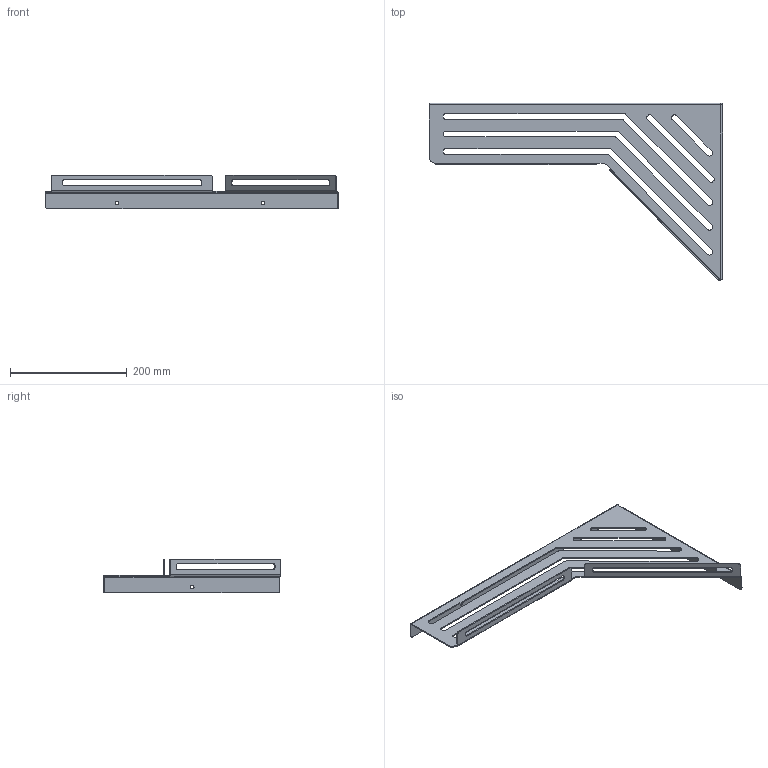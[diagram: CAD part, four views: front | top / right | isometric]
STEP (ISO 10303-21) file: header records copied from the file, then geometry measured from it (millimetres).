
FILE_DESCRIPTION (( 'STEP AP203' ), '1' );
FILE_NAME ('CWT8.STEP', '2020-09-23T07:53:50', ( '' ), ( '' ), 'SwSTEP 2.0', 'SolidWorks 2020', '' );
FILE_SCHEMA (( 'CONFIG_CONTROL_DESIGN' ));
Length unit declared in the file: millimetre
Products named in the file (1): CWT8
Bounding box: 503 x 305.12 x 58 mm (x, y, z)
Volume: 174681.1 mm3; surface area: 187686 mm2
Topology: 1 solids, 1 shells, 131 faces, 359 edges, 230 vertices
Faces by surface type: plane 68, cylinder 63
Entity records: 4272 total; most frequent: DIRECTION 749, CARTESIAN_POINT 721, ORIENTED_EDGE 718, EDGE_CURVE 359, AXIS2_PLACEMENT_3D 258, LINE 233, VECTOR 233, VERTEX_POINT 230
